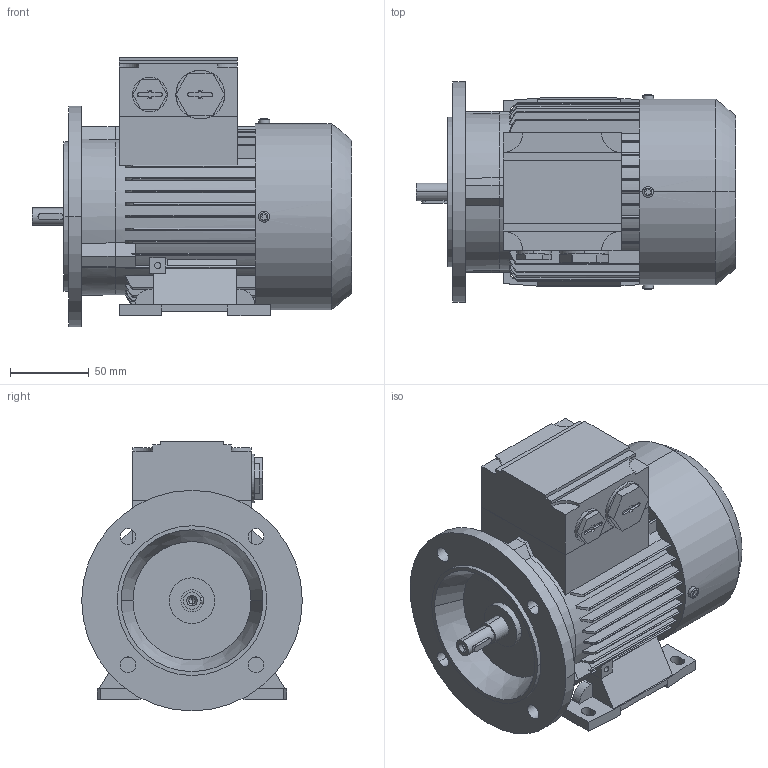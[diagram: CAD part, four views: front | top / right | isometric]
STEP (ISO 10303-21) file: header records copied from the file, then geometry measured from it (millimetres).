
FILE_DESCRIPTION (( 'STEP AP214' ), '1' );
FILE_NAME ('5RN63M02E22 IM2081.STEP', '2022-08-04T09:19:37', ( '' ), ( '' ), 'SwSTEP 2.0', 'SolidWorks 2021', '' );
FILE_SCHEMA (( 'AUTOMOTIVE_DESIGN' ));
Length unit declared in the file: millimetre
Products named in the file (1): 5RN63M02E22 IM2081
Bounding box: 202.5 x 140 x 171.29 mm (x, y, z)
Volume: 1974166.4 mm3; surface area: 170649.9 mm2
Topology: 1 solids, 1 shells, 521 faces, 1429 edges, 935 vertices
Faces by surface type: plane 313, cylinder 156, torus 36, cone 16
Entity records: 18361 total; most frequent: CARTESIAN_POINT 4982, ORIENTED_EDGE 2854, DIRECTION 2708, EDGE_CURVE 1427, VERTEX_POINT 935, VECTOR 932, LINE 932, AXIS2_PLACEMENT_3D 888
